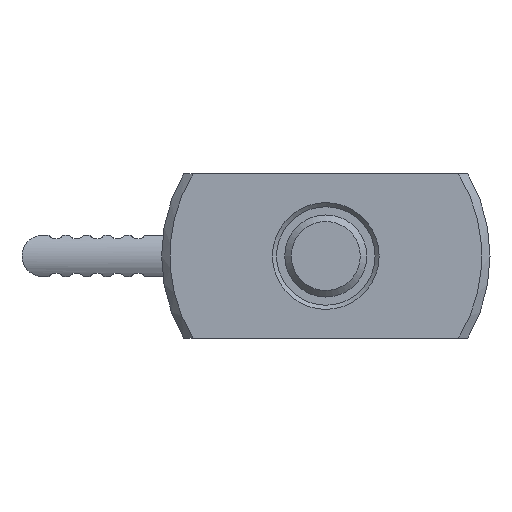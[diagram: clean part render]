
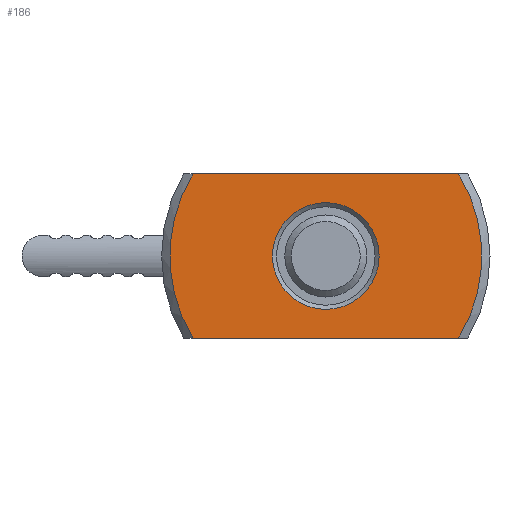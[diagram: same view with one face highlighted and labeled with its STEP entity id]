
A CAD part, front view. The second image highlights one B-rep face of the part: STEP entity #186.
In plain terms, the highlighted planar face has unit normal (0, -1, 0).
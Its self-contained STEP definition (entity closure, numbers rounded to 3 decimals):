
#186 = ADVANCED_FACE( '', ( #313, #314 ), #315, .F. );
#313 = FACE_BOUND( '', #558, .T. );
#314 = FACE_OUTER_BOUND( '', #559, .T. );
#315 = PLANE( '', #560 );
#558 = EDGE_LOOP( '', ( #907 ) );
#559 = EDGE_LOOP( '', ( #908, #909, #910, #911 ) );
#560 = AXIS2_PLACEMENT_3D( '', #912, #913, #914 );
#907 = ORIENTED_EDGE( '', *, *, #1607, .F. );
#908 = ORIENTED_EDGE( '', *, *, #1597, .T. );
#909 = ORIENTED_EDGE( '', *, *, #1593, .T. );
#910 = ORIENTED_EDGE( '', *, *, #1586, .T. );
#911 = ORIENTED_EDGE( '', *, *, #1608, .T. );
#912 = CARTESIAN_POINT( '', ( 19., 0., 0. ) );
#913 = DIRECTION( '', ( 0., 1., 0. ) );
#914 = DIRECTION( '', ( 0., 0., 1. ) );
#1586 = EDGE_CURVE( '', #1851, #1852, #1853, .T. );
#1593 = EDGE_CURVE( '', #1864, #1851, #1865, .T. );
#1597 = EDGE_CURVE( '', #1871, #1864, #1872, .T. );
#1607 = EDGE_CURVE( '', #1885, #1885, #1886, .T. );
#1608 = EDGE_CURVE( '', #1852, #1871, #1887, .T. );
#1851 = VERTEX_POINT( '', #2483 );
#1852 = VERTEX_POINT( '', #2484 );
#1853 = CIRCLE( '', #2485, 19. );
#1864 = VERTEX_POINT( '', #2503 );
#1865 = LINE( '', #2504, #2505 );
#1871 = VERTEX_POINT( '', #2515 );
#1872 = CIRCLE( '', #2516, 19. );
#1885 = VERTEX_POINT( '', #2559 );
#1886 = CIRCLE( '', #2560, 6.5 );
#1887 = LINE( '', #2561, #2562 );
#2483 = CARTESIAN_POINT( '', ( 16.155, 0., -10. ) );
#2484 = CARTESIAN_POINT( '', ( 16.155, 0., 10. ) );
#2485 = AXIS2_PLACEMENT_3D( '', #3059, #3060, #3061 );
#2503 = CARTESIAN_POINT( '', ( -16.155, 0., -10. ) );
#2504 = CARTESIAN_POINT( '', ( 19., 0., -10. ) );
#2505 = VECTOR( '', #3072, 1000. );
#2515 = CARTESIAN_POINT( '', ( -16.155, 0., 10. ) );
#2516 = AXIS2_PLACEMENT_3D( '', #3077, #3078, #3079 );
#2559 = CARTESIAN_POINT( '', ( 0., 0., -6.5 ) );
#2560 = AXIS2_PLACEMENT_3D( '', #3091, #3092, #3093 );
#2561 = CARTESIAN_POINT( '', ( 19., 0., 10. ) );
#2562 = VECTOR( '', #3094, 1000. );
#3059 = CARTESIAN_POINT( '', ( 0., 0., 0. ) );
#3060 = DIRECTION( '', ( 0., -1., 0. ) );
#3061 = DIRECTION( '', ( 0., 0., -1. ) );
#3072 = DIRECTION( '', ( 1., 0., 0. ) );
#3077 = CARTESIAN_POINT( '', ( 0., 0., 0. ) );
#3078 = DIRECTION( '', ( 0., -1., 0. ) );
#3079 = DIRECTION( '', ( 0., 0., -1. ) );
#3091 = CARTESIAN_POINT( '', ( 0., 0., 0. ) );
#3092 = DIRECTION( '', ( 0., -1., 0. ) );
#3093 = DIRECTION( '', ( 0., 0., -1. ) );
#3094 = DIRECTION( '', ( -1., 0., 0. ) );
